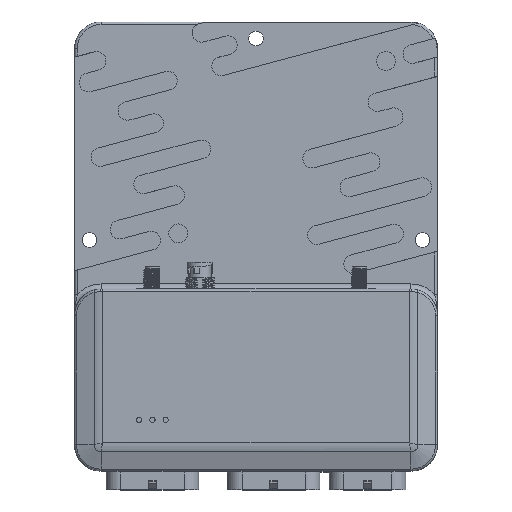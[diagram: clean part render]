
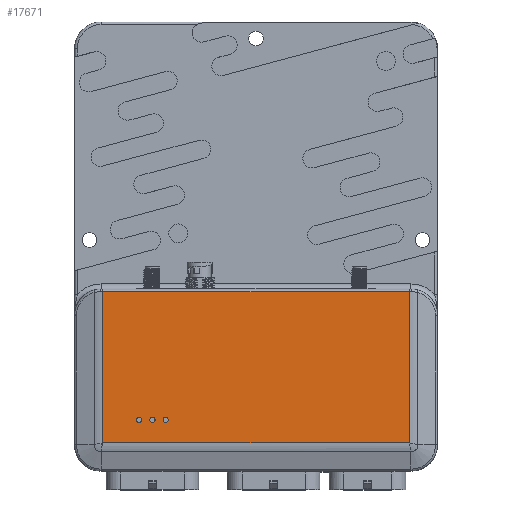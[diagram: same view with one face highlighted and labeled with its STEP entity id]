
A CAD part, top view. The second image highlights one B-rep face of the part: STEP entity #17671.
In plain terms, the highlighted planar face has unit normal (0, 0, 1).
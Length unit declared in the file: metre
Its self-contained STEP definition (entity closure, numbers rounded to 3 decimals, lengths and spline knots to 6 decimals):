
#2097=LINE('',#30115,#3234);
#2107=LINE('',#30362,#3244);
#2110=LINE('',#30694,#3247);
#2112=LINE('',#31013,#3249);
#3234=VECTOR('',#24536,1.);
#3244=VECTOR('',#24614,1.);
#3247=VECTOR('',#24619,1.);
#3249=VECTOR('',#24623,1.);
#5056=ORIENTED_EDGE('',*,*,#9841,.F.);
#5057=ORIENTED_EDGE('',*,*,#9788,.F.);
#5058=ORIENTED_EDGE('',*,*,#9830,.T.);
#5059=ORIENTED_EDGE('',*,*,#9837,.T.);
#5060=ORIENTED_EDGE('',*,*,#9899,.F.);
#5061=ORIENTED_EDGE('',*,*,#9900,.F.);
#5062=ORIENTED_EDGE('',*,*,#9901,.F.);
#9788=EDGE_CURVE('',#12258,#12254,#2097,.T.);
#9830=EDGE_CURVE('',#12258,#12287,#2107,.T.);
#9837=EDGE_CURVE('',#12287,#12291,#2110,.T.);
#9841=EDGE_CURVE('',#12254,#12291,#2112,.T.);
#9899=EDGE_CURVE('',#12330,#12330,#13854,.T.);
#9900=EDGE_CURVE('',#12331,#12331,#13855,.T.);
#9901=EDGE_CURVE('',#12332,#12332,#13856,.T.);
#12254=VERTEX_POINT('',#30102);
#12258=VERTEX_POINT('',#30114);
#12287=VERTEX_POINT('',#30363);
#12291=VERTEX_POINT('',#30693);
#12330=VERTEX_POINT('',#31131);
#12331=VERTEX_POINT('',#31133);
#12332=VERTEX_POINT('',#31135);
#13854=CIRCLE('',#22179,0.001);
#13855=CIRCLE('',#22180,0.001);
#13856=CIRCLE('',#22181,0.001);
#14761=EDGE_LOOP('',(#5056,#5057,#5058,#5059));
#14762=EDGE_LOOP('',(#5060));
#14763=EDGE_LOOP('',(#5061));
#14764=EDGE_LOOP('',(#5062));
#16056=FACE_BOUND('',#14761,.T.);
#16057=FACE_BOUND('',#14762,.T.);
#16058=FACE_BOUND('',#14763,.T.);
#16059=FACE_BOUND('',#14764,.T.);
#17198=PLANE('',#22178);
#17671=ADVANCED_FACE('',(#16056,#16057,#16058,#16059),#17198,.T.);
#22178=AXIS2_PLACEMENT_3D('',#31129,#24736,#24737);
#22179=AXIS2_PLACEMENT_3D('',#31130,#24738,#24739);
#22180=AXIS2_PLACEMENT_3D('',#31132,#24740,#24741);
#22181=AXIS2_PLACEMENT_3D('',#31134,#24742,#24743);
#24536=DIRECTION('',(1.,0.,0.));
#24614=DIRECTION('',(0.,-1.,0.));
#24619=DIRECTION('',(1.,0.,0.));
#24623=DIRECTION('',(0.,-1.,0.));
#24736=DIRECTION('',(0.,0.,1.));
#24737=DIRECTION('',(1.,0.,0.));
#24738=DIRECTION('',(0.,0.,1.));
#24739=DIRECTION('',(1.,0.,0.));
#24740=DIRECTION('',(0.,0.,1.));
#24741=DIRECTION('',(1.,0.,0.));
#24742=DIRECTION('',(0.,0.,1.));
#24743=DIRECTION('',(1.,0.,0.));
#30102=CARTESIAN_POINT('',(0.058027,-0.096305,0.0402));
#30114=CARTESIAN_POINT('',(-0.058017,-0.096305,0.0402));
#30115=CARTESIAN_POINT('',(0.000005,-0.096305,0.0402));
#30362=CARTESIAN_POINT('',(-0.058017,-0.07914,0.0402));
#30363=CARTESIAN_POINT('',(-0.058017,-0.153482,0.0402));
#30693=CARTESIAN_POINT('',(0.058027,-0.153482,0.0402));
#30694=CARTESIAN_POINT('',(0.000005,-0.153482,0.0402));
#31013=CARTESIAN_POINT('',(0.058027,-0.07914,0.0402));
#31129=CARTESIAN_POINT('',(0.000005,-0.07914,0.0402));
#31130=CARTESIAN_POINT('',(-0.03419,-0.144805,0.0402));
#31131=CARTESIAN_POINT('',(-0.03319,-0.144805,0.0402));
#31132=CARTESIAN_POINT('',(-0.03919,-0.144805,0.0402));
#31133=CARTESIAN_POINT('',(-0.03819,-0.144805,0.0402));
#31134=CARTESIAN_POINT('',(-0.04419,-0.144805,0.0402));
#31135=CARTESIAN_POINT('',(-0.04319,-0.144805,0.0402));
